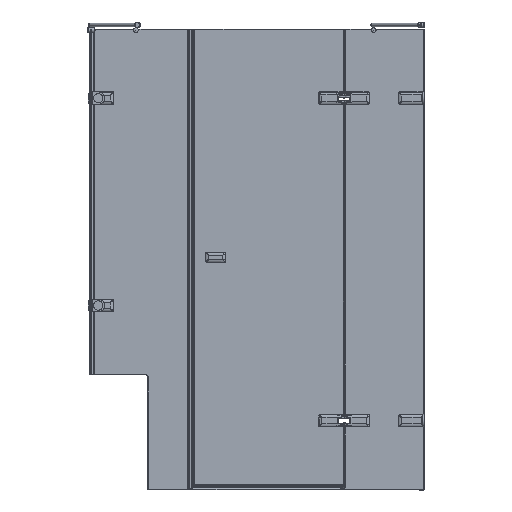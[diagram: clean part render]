
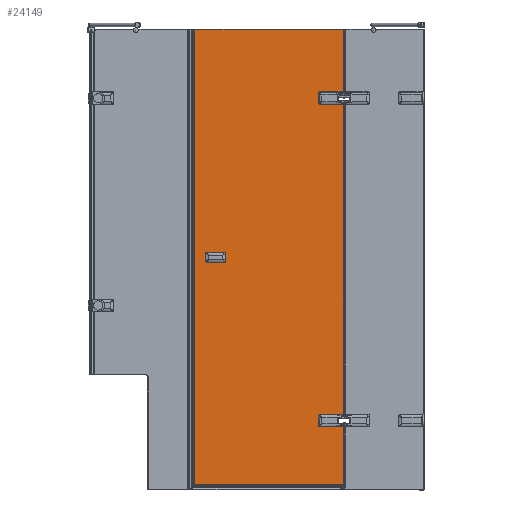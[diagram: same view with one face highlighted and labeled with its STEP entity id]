
A CAD part, left-side view. The second image highlights one B-rep face of the part: STEP entity #24149.
In plain terms, the highlighted planar face has unit normal (-1, 0, 0).
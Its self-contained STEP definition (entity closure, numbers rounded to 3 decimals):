
#439=LINE($,#34051,#2774);
#941=LINE($,#39469,#3276);
#1056=LINE($,#39781,#3391);
#1113=LINE($,#39953,#3448);
#1206=LINE($,#40345,#3541);
#1252=LINE($,#40504,#3587);
#1253=LINE($,#40507,#3588);
#1254=LINE($,#40508,#3589);
#1255=LINE($,#40512,#3590);
#1256=LINE($,#40515,#3591);
#1257=LINE($,#40519,#3592);
#1258=LINE($,#40522,#3593);
#2774=VECTOR($,#27365,648.636);
#3276=VECTOR($,#28743,281.);
#3391=VECTOR($,#28994,1362.);
#3448=VECTOR($,#29159,30.636);
#3541=VECTOR($,#29370,256.4);
#3587=VECTOR($,#29484,30.636);
#3588=VECTOR($,#29487,1975.4);
#3589=VECTOR($,#29488,648.636);
#3590=VECTOR($,#29491,18.);
#3591=VECTOR($,#29494,30.636);
#3592=VECTOR($,#29497,18.);
#3593=VECTOR($,#29500,30.636);
#5709=FACE_BOUND($,#7518,.T.);
#5710=FACE_BOUND($,#7519,.T.);
#6193=FACE_OUTER_BOUND($,#7517,.T.);
#7517=EDGE_LOOP($,(#17253,#17254,#17255,#17256,#17257,#17258,#17259,#17260,
#17261,#17262,#17263,#17264,#17265,#17266,#17267,#17268));
#7518=EDGE_LOOP($,(#17269));
#7519=EDGE_LOOP($,(#17270));
#8708=CIRCLE($,#25778,10.);
#8709=CIRCLE($,#25779,10.);
#8710=CIRCLE($,#25780,10.);
#8711=CIRCLE($,#25781,10.);
#8712=CIRCLE($,#25782,5.);
#8713=CIRCLE($,#25783,5.);
#9280=VERTEX_POINT($,#34048);
#9281=VERTEX_POINT($,#34050);
#9788=VERTEX_POINT($,#39468);
#9898=VERTEX_POINT($,#39779);
#9899=VERTEX_POINT($,#39780);
#9948=VERTEX_POINT($,#39951);
#10050=VERTEX_POINT($,#40342);
#10051=VERTEX_POINT($,#40344);
#10094=VERTEX_POINT($,#40502);
#10095=VERTEX_POINT($,#40506);
#10096=VERTEX_POINT($,#40509);
#10097=VERTEX_POINT($,#40511);
#10098=VERTEX_POINT($,#40513);
#10099=VERTEX_POINT($,#40516);
#10100=VERTEX_POINT($,#40518);
#10101=VERTEX_POINT($,#40520);
#10102=VERTEX_POINT($,#40523);
#10103=VERTEX_POINT($,#40525);
#11531=EDGE_CURVE($,#9281,#9280,#439,.T.);
#12312=EDGE_CURVE($,#9281,#9788,#941,.T.);
#12462=EDGE_CURVE($,#9898,#9899,#1056,.T.);
#12547=EDGE_CURVE($,#9948,#9898,#1113,.T.);
#12682=EDGE_CURVE($,#10050,#10051,#1206,.T.);
#12747=EDGE_CURVE($,#10094,#10050,#1252,.T.);
#12748=EDGE_CURVE($,#10095,#9280,#1253,.T.);
#12749=EDGE_CURVE($,#10095,#10051,#1254,.T.);
#12750=EDGE_CURVE($,#10094,#10096,#8708,.T.);
#12751=EDGE_CURVE($,#10097,#10096,#1255,.T.);
#12752=EDGE_CURVE($,#10097,#10098,#8709,.T.);
#12753=EDGE_CURVE($,#9899,#10098,#1256,.T.);
#12754=EDGE_CURVE($,#9948,#10099,#8710,.T.);
#12755=EDGE_CURVE($,#10100,#10099,#1257,.T.);
#12756=EDGE_CURVE($,#10100,#10101,#8711,.T.);
#12757=EDGE_CURVE($,#9788,#10101,#1258,.T.);
#12758=EDGE_CURVE($,#10102,#10102,#8712,.T.);
#12759=EDGE_CURVE($,#10103,#10103,#8713,.T.);
#17253=ORIENTED_EDGE($,*,*,#12312,.F.);
#17254=ORIENTED_EDGE($,*,*,#11531,.T.);
#17255=ORIENTED_EDGE($,*,*,#12748,.F.);
#17256=ORIENTED_EDGE($,*,*,#12749,.T.);
#17257=ORIENTED_EDGE($,*,*,#12682,.F.);
#17258=ORIENTED_EDGE($,*,*,#12747,.F.);
#17259=ORIENTED_EDGE($,*,*,#12750,.T.);
#17260=ORIENTED_EDGE($,*,*,#12751,.F.);
#17261=ORIENTED_EDGE($,*,*,#12752,.T.);
#17262=ORIENTED_EDGE($,*,*,#12753,.F.);
#17263=ORIENTED_EDGE($,*,*,#12462,.F.);
#17264=ORIENTED_EDGE($,*,*,#12547,.F.);
#17265=ORIENTED_EDGE($,*,*,#12754,.T.);
#17266=ORIENTED_EDGE($,*,*,#12755,.F.);
#17267=ORIENTED_EDGE($,*,*,#12756,.T.);
#17268=ORIENTED_EDGE($,*,*,#12757,.F.);
#17269=ORIENTED_EDGE($,*,*,#12758,.F.);
#17270=ORIENTED_EDGE($,*,*,#12759,.F.);
#21920=PLANE($,#25777);
#24149=ADVANCED_FACE($,(#6193,#5709,#5710),#21920,.F.);
#25777=AXIS2_PLACEMENT_3D($,#40505,#29485,#29486);
#25778=AXIS2_PLACEMENT_3D($,#40510,#29489,#29490);
#25779=AXIS2_PLACEMENT_3D($,#40514,#29492,#29493);
#25780=AXIS2_PLACEMENT_3D($,#40517,#29495,#29496);
#25781=AXIS2_PLACEMENT_3D($,#40521,#29498,#29499);
#25782=AXIS2_PLACEMENT_3D($,#40524,#29501,#29502);
#25783=AXIS2_PLACEMENT_3D($,#40526,#29503,#29504);
#27365=DIRECTION($,(0.,1.,0.));
#28743=DIRECTION($,(0.,0.,-1.));
#28994=DIRECTION($,(0.,0.,-1.));
#29159=DIRECTION($,(0.,-1.,0.));
#29370=DIRECTION($,(0.,0.,-1.));
#29484=DIRECTION($,(0.,-1.,0.));
#29485=DIRECTION('center_axis',(1.,0.,0.));
#29486=DIRECTION('ref_axis',(0.,1.,0.));
#29487=DIRECTION($,(0.,0.,1.));
#29488=DIRECTION($,(0.,-1.,0.));
#29489=DIRECTION('center_axis',(1.,0.,0.));
#29490=DIRECTION('ref_axis',(0.,0.707,-0.707));
#29491=DIRECTION($,(0.,0.,-1.));
#29492=DIRECTION('center_axis',(1.,0.,0.));
#29493=DIRECTION('ref_axis',(0.,0.707,0.707));
#29494=DIRECTION($,(0.,1.,0.));
#29495=DIRECTION('center_axis',(1.,0.,0.));
#29496=DIRECTION('ref_axis',(0.,0.707,-0.707));
#29497=DIRECTION($,(0.,0.,-1.));
#29498=DIRECTION('center_axis',(1.,0.,0.));
#29499=DIRECTION('ref_axis',(0.,0.707,0.707));
#29500=DIRECTION($,(0.,1.,0.));
#29501=DIRECTION('center_axis',(-1.,0.,0.));
#29502=DIRECTION('ref_axis',(0.,1.,0.));
#29503=DIRECTION('center_axis',(-1.,0.,0.));
#29504=DIRECTION('ref_axis',(0.,1.,0.));
#34048=CARTESIAN_POINT('',(1225.951,-670.045,1485.944));
#34050=CARTESIAN_POINT('',(1225.951,-1318.681,1485.944));
#34051=CARTESIAN_POINT($,(1225.951,-1320.045,1485.944));
#39468=CARTESIAN_POINT('',(1225.951,-1318.681,1204.944));
#39469=CARTESIAN_POINT($,(1225.951,-1318.681,1195.944));
#39779=CARTESIAN_POINT('',(1225.951,-1318.681,1166.944));
#39780=CARTESIAN_POINT('',(1225.951,-1318.681,-195.056));
#39781=CARTESIAN_POINT($,(1225.951,-1318.681,1175.944));
#39951=CARTESIAN_POINT('',(1225.951,-1288.045,1166.944));
#39953=CARTESIAN_POINT($,(1225.951,-1299.045,1166.944));
#40342=CARTESIAN_POINT('',(1225.951,-1318.681,-233.056));
#40344=CARTESIAN_POINT('',(1225.951,-1318.681,-489.456));
#40345=CARTESIAN_POINT($,(1225.951,-1318.681,-514.056));
#40502=CARTESIAN_POINT('',(1225.951,-1288.045,-233.056));
#40504=CARTESIAN_POINT($,(1225.951,-1299.045,-233.056));
#40505=CARTESIAN_POINT('Origin',(1225.951,-1320.045,-494.056));
#40506=CARTESIAN_POINT('',(1225.951,-670.045,-489.456));
#40507=CARTESIAN_POINT($,(1225.951,-670.045,-494.056));
#40508=CARTESIAN_POINT($,(1225.951,-660.045,-489.456));
#40509=CARTESIAN_POINT('',(1225.951,-1278.045,-223.056));
#40510=CARTESIAN_POINT('Origin',(1225.951,-1288.045,-223.056));
#40511=CARTESIAN_POINT('',(1225.951,-1278.045,-205.056));
#40512=CARTESIAN_POINT($,(1225.951,-1278.045,-344.556));
#40513=CARTESIAN_POINT('',(1225.951,-1288.045,-195.056));
#40514=CARTESIAN_POINT('Origin',(1225.951,-1288.045,-205.056));
#40515=CARTESIAN_POINT($,(1225.951,-1320.045,-195.056));
#40516=CARTESIAN_POINT('',(1225.951,-1278.045,1176.944));
#40517=CARTESIAN_POINT('Origin',(1225.951,-1288.045,1176.944));
#40518=CARTESIAN_POINT('',(1225.951,-1278.045,1194.944));
#40519=CARTESIAN_POINT($,(1225.951,-1278.045,355.444));
#40520=CARTESIAN_POINT('',(1225.951,-1288.045,1204.944));
#40521=CARTESIAN_POINT('Origin',(1225.951,-1288.045,1194.944));
#40522=CARTESIAN_POINT($,(1225.951,-1320.045,1204.944));
#40523=CARTESIAN_POINT('',(1225.951,-1260.045,1185.944));
#40524=CARTESIAN_POINT('Origin',(1225.951,-1255.045,1185.944));
#40525=CARTESIAN_POINT('',(1225.951,-1260.045,-214.056));
#40526=CARTESIAN_POINT('Origin',(1225.951,-1255.045,-214.056));
